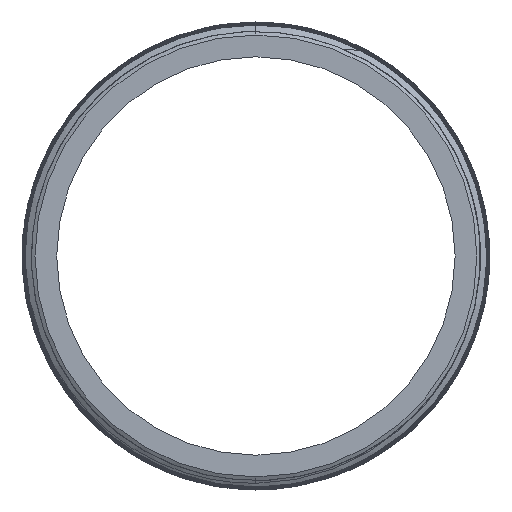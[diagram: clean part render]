
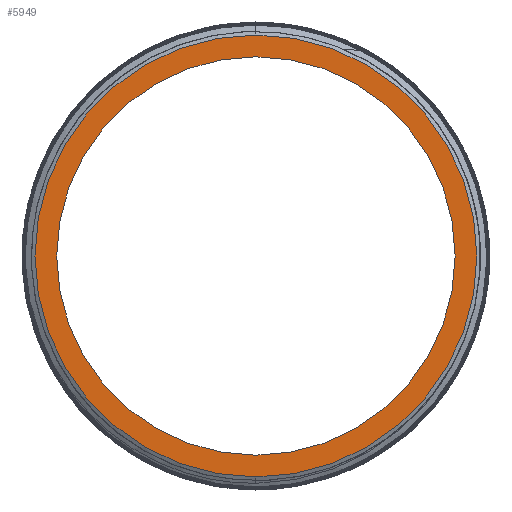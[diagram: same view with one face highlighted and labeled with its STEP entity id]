
A CAD part, left-side view. The second image highlights one B-rep face of the part: STEP entity #5949.
In plain terms, the highlighted planar face has unit normal (-1, 0, 0).
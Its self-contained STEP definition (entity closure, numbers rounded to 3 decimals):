
#976 = CARTESIAN_POINT ( 'NONE',  ( -500., 0., 0. ) ) ;
#1383 = ORIENTED_EDGE ( 'NONE', *, *, #4767, .T. ) ;
#1855 = AXIS2_PLACEMENT_3D ( 'NONE', #9297, #5253, #9363 ) ;
#1899 = EDGE_LOOP ( 'NONE', ( #7614, #1383 ) ) ;
#2460 = VERTEX_POINT ( 'NONE', #12335 ) ;
#2740 = VERTEX_POINT ( 'NONE', #12901 ) ;
#2927 = CIRCLE ( 'NONE', #1855, 11.45 ) ;
#3070 = CARTESIAN_POINT ( 'NONE',  ( -500., 0., 0. ) ) ;
#3300 = DIRECTION ( 'NONE',  ( 1., 0., 0. ) ) ;
#4081 = AXIS2_PLACEMENT_3D ( 'NONE', #10657, #4390, #9710 ) ;
#4100 = DIRECTION ( 'NONE',  ( 0., 0., 1. ) ) ;
#4291 = DIRECTION ( 'NONE',  ( 0., 0., 1. ) ) ;
#4390 = DIRECTION ( 'NONE',  ( -1., 0., 0. ) ) ;
#4767 = EDGE_CURVE ( 'NONE', #11673, #2740, #6917, .T. ) ;
#5104 = DIRECTION ( 'NONE',  ( -1., 0., 0. ) ) ;
#5253 = DIRECTION ( 'NONE',  ( -1., 0., 0. ) ) ;
#5522 = FACE_OUTER_BOUND ( 'NONE', #1899, .T. ) ;
#5805 = CIRCLE ( 'NONE', #7528, 11.45 ) ;
#5949 = ADVANCED_FACE ( 'NONE', ( #7352, #5522 ), #7490, .F. ) ;
#5966 = CARTESIAN_POINT ( 'NONE',  ( -500., 0., -11.45 ) ) ;
#6917 = CIRCLE ( 'NONE', #10818, 12.7 ) ;
#7352 = FACE_BOUND ( 'NONE', #8828, .T. ) ;
#7412 = ORIENTED_EDGE ( 'NONE', *, *, #11611, .F. ) ;
#7490 = PLANE ( 'NONE',  #7605 ) ;
#7528 = AXIS2_PLACEMENT_3D ( 'NONE', #3070, #11257, #4100 ) ;
#7605 = AXIS2_PLACEMENT_3D ( 'NONE', #9638, #3300, #12759 ) ;
#7614 = ORIENTED_EDGE ( 'NONE', *, *, #10787, .T. ) ;
#7864 = EDGE_CURVE ( 'NONE', #11204, #2460, #2927, .T. ) ;
#8300 = ORIENTED_EDGE ( 'NONE', *, *, #7864, .F. ) ;
#8828 = EDGE_LOOP ( 'NONE', ( #7412, #8300 ) ) ;
#9297 = CARTESIAN_POINT ( 'NONE',  ( -500., 0., 0. ) ) ;
#9363 = DIRECTION ( 'NONE',  ( 0., 0., 1. ) ) ;
#9638 = CARTESIAN_POINT ( 'NONE',  ( -500., 11.45, 0. ) ) ;
#9710 = DIRECTION ( 'NONE',  ( 0., 0., 1. ) ) ;
#10499 = CARTESIAN_POINT ( 'NONE',  ( -500., 0., 12.7 ) ) ;
#10657 = CARTESIAN_POINT ( 'NONE',  ( -500., 0., 0. ) ) ;
#10787 = EDGE_CURVE ( 'NONE', #2740, #11673, #13354, .T. ) ;
#10818 = AXIS2_PLACEMENT_3D ( 'NONE', #976, #5104, #4291 ) ;
#11204 = VERTEX_POINT ( 'NONE', #5966 ) ;
#11257 = DIRECTION ( 'NONE',  ( -1., 0., 0. ) ) ;
#11611 = EDGE_CURVE ( 'NONE', #2460, #11204, #5805, .T. ) ;
#11673 = VERTEX_POINT ( 'NONE', #10499 ) ;
#12335 = CARTESIAN_POINT ( 'NONE',  ( -500., 0., 11.45 ) ) ;
#12759 = DIRECTION ( 'NONE',  ( 0., 0., -1. ) ) ;
#12901 = CARTESIAN_POINT ( 'NONE',  ( -500., 0., -12.7 ) ) ;
#13354 = CIRCLE ( 'NONE', #4081, 12.7 ) ;
